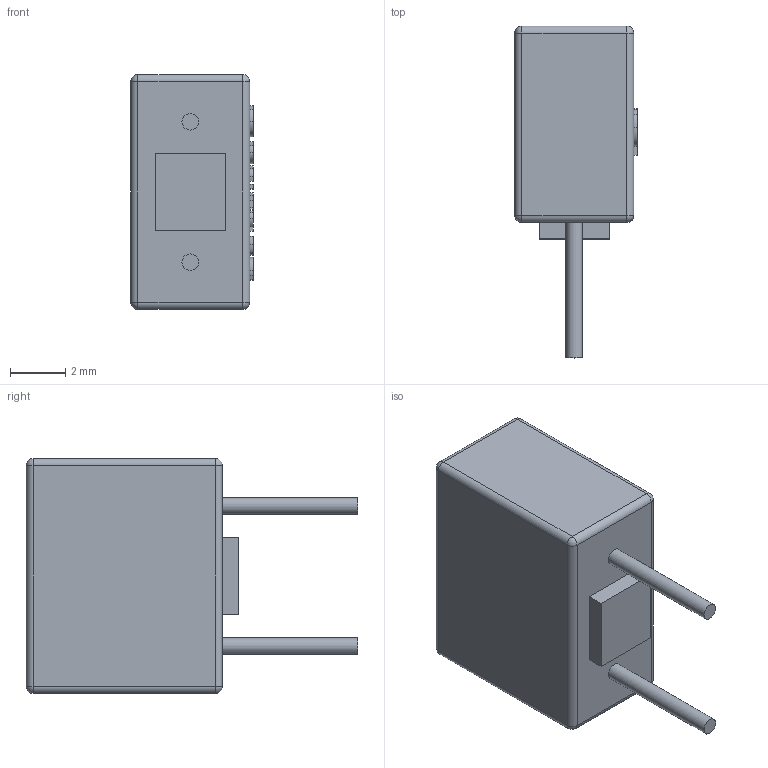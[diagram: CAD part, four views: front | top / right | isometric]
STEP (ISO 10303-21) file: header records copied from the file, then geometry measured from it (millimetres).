
FILE_DESCRIPTION(/* description */ (''),/* implementation_level */ '2;1');
FILE_NAME(/* name */ 'C:\Users\Hani\Desktop\work\TMS\TMS.stp',/* time_stamp */ '2021-08-22T11:02:14-07:00',/* author */ ('Hani'),/* organization */ (''),/* preprocessor_version */ 'ST-DEVELOPER v17',/* originating_system */ 'Autodesk Inventor 2019',/* authorisation */ '');
FILE_SCHEMA (('AUTOMOTIVE_DESIGN { 1 0 10303 214 3 1 1 }'));
Length unit declared in the file: inch
Products named in the file (1): FMS
Bounding box: 4.43 x 12 x 8.5 mm (x, y, z)
Volume: 265.8 mm3; surface area: 276 mm2
Topology: 1 solids, 1 shells, 171 faces, 438 edges, 284 vertices
Faces by surface type: plane 82, bspline 67, cylinder 14, sphere 8
Full cylindrical faces by diameter (mm): 0.6 x2
Entity records: 5766 total; most frequent: CARTESIAN_POINT 1963, ORIENTED_EDGE 876, DIRECTION 542, EDGE_CURVE 438, VERTEX_POINT 284, LINE 276, VECTOR 276, EDGE_LOOP 186
